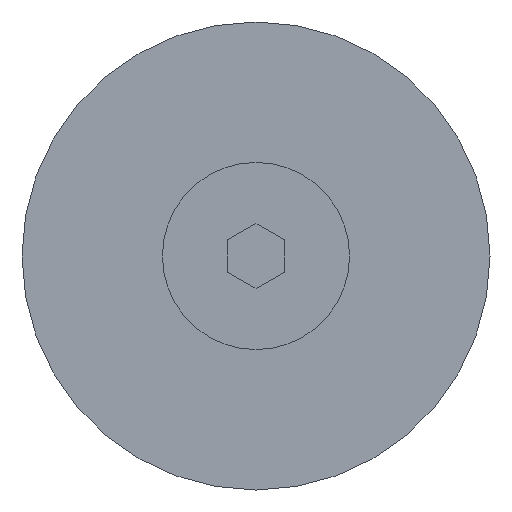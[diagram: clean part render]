
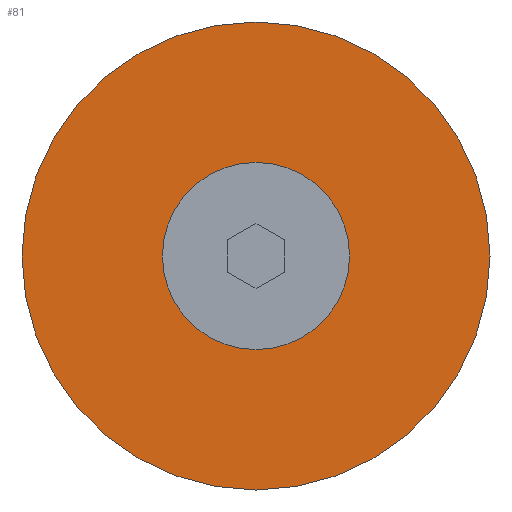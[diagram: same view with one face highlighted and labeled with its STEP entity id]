
A CAD part, front view. The second image highlights one B-rep face of the part: STEP entity #81.
In plain terms, the highlighted planar face has unit normal (0, -1, 0).
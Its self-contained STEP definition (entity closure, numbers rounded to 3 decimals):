
#81=ADVANCED_FACE('',(#118,#119),#120,.F.);
#118=FACE_OUTER_BOUND('',#182,.T.);
#119=FACE_BOUND('',#183,.T.);
#120=PLANE('',#184);
#182=EDGE_LOOP('',(#276,#277));
#183=EDGE_LOOP('',(#278,#279));
#184=AXIS2_PLACEMENT_3D('',#280,#281,#282);
#276=ORIENTED_EDGE('',*,*,#477,.T.);
#277=ORIENTED_EDGE('',*,*,#472,.T.);
#278=ORIENTED_EDGE('',*,*,#478,.F.);
#279=ORIENTED_EDGE('',*,*,#474,.F.);
#280=CARTESIAN_POINT('',(-12.5,-7.0,0.0));
#281=DIRECTION('',(0.0,1.0,0.0));
#282=DIRECTION('',(1.0,0.0,-0.0));
#472=EDGE_CURVE('',#548,#550,#552,.T.);
#474=EDGE_CURVE('',#553,#556,#557,.T.);
#477=EDGE_CURVE('',#550,#548,#561,.T.);
#478=EDGE_CURVE('',#556,#553,#562,.T.);
#548=VERTEX_POINT('',#664);
#550=VERTEX_POINT('',#667);
#552=CIRCLE('',#670,12.5);
#553=VERTEX_POINT('',#671);
#556=VERTEX_POINT('',#675);
#557=CIRCLE('',#676,5.0);
#561=CIRCLE('',#681,12.5);
#562=CIRCLE('',#682,5.0);
#664=CARTESIAN_POINT('',(0.,-7.0,-12.5));
#667=CARTESIAN_POINT('',(0.,-7.0,12.5));
#670=AXIS2_PLACEMENT_3D('',#814,#815,#816);
#671=CARTESIAN_POINT('',(0.,-7.0,-5.0));
#675=CARTESIAN_POINT('',(0.,-7.0,5.0));
#676=AXIS2_PLACEMENT_3D('',#818,#819,#820);
#681=AXIS2_PLACEMENT_3D('',#825,#826,#827);
#682=AXIS2_PLACEMENT_3D('',#828,#829,#830);
#814=CARTESIAN_POINT('',(0.,-7.0,0.0));
#815=DIRECTION('',(0.0,-1.0,0.0));
#816=DIRECTION('',(0.0,0.0,-1.0));
#818=CARTESIAN_POINT('',(0.,-7.0,0.0));
#819=DIRECTION('',(0.0,-1.0,0.0));
#820=DIRECTION('',(0.0,0.0,-1.0));
#825=CARTESIAN_POINT('',(0.,-7.0,0.0));
#826=DIRECTION('',(0.0,-1.0,0.0));
#827=DIRECTION('',(0.0,0.0,-1.0));
#828=CARTESIAN_POINT('',(0.,-7.0,0.0));
#829=DIRECTION('',(0.0,-1.0,0.0));
#830=DIRECTION('',(0.0,0.0,-1.0));
